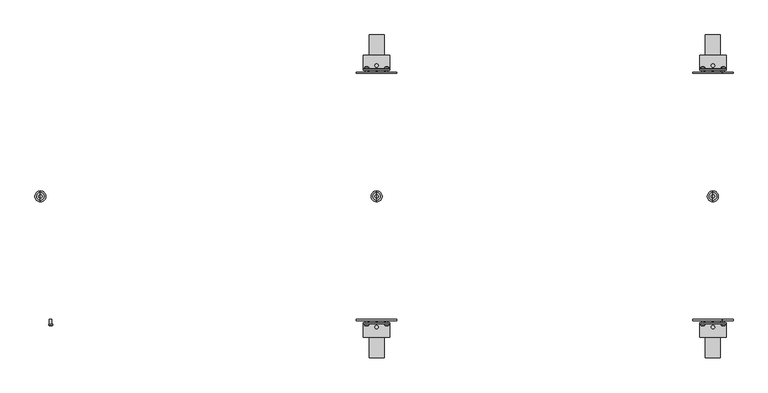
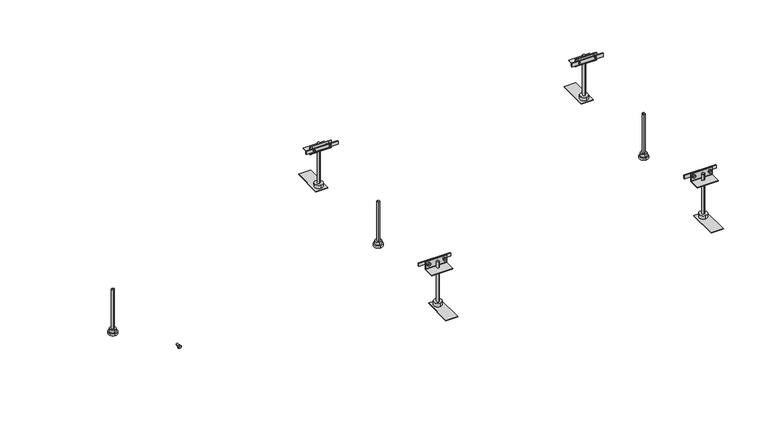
"""IFC4 building model written with IfcOpenShell, lengths in millimetres: proxy geometry."""

from ifc_helpers import new_model, si_unit, point, frame, frame_2d, origin, place, context, project, spatial, polyline, circle_curve, ellipse_curve, trimmed, segment, composite_curve, outline, extrude, source, transform, mapped, element, save
from ifc_brep_helpers import plane_surface, cylinder_surface, revolved_surface, advanced_brep


def electrical_fixtures_3dcf8f7d(model_context):
    return source(origin(), model_context, "Body", "SolidModel", [
        advanced_brep(
        [(1600.0, 13.0, -129.7), (1600.0, -13.0, -129.7), (1600.0, 0.0, -129.7), (1600.0, 13.0, -123.7), (1600.0, -13.0, -123.7), (1600.0, 9.0, -123.7), (1600.0, -9.0, -123.7), (1600.0, 9.0, -114.7), (1600.0, -9.0, -114.7), (1600.0, 3.954744, -114.7), (1600.0, -3.954744, -114.7), (1600.0, 3.954744, 10.3), (1600.0, -3.954744, 10.3), (1600.0, 0.0, 10.3)],
        [
            (0, 1, circle_curve(frame((1600.0, 0.0, -129.7), z_axis=(0.0, 0.0, -1.0), x_axis=(0.0, -1.0, 0.0)), 13.0)),
            (1, 2),
            (2, 0),
            (1, 0, circle_curve(frame((1600.0, 0.0, -129.7), z_axis=(0.0, 0.0, -1.0), x_axis=(0.0, -1.0, 0.0)), 13.0)),
            (3, 4, circle_curve(frame((1600.0, 0.0, -123.7), z_axis=(0.0, 0.0, -1.0), x_axis=(0.0, -1.0, 0.0)), 13.0)),
            (4, 1),
            (0, 3),
            (4, 3, circle_curve(frame((1600.0, 0.0, -123.7), z_axis=(0.0, 0.0, -1.0), x_axis=(0.0, -1.0, 0.0)), 13.0)),
            (5, 6, circle_curve(frame((1600.0, 0.0, -123.7), z_axis=(0.0, 0.0, -1.0), x_axis=(0.0, -1.0, 0.0)), 9.0)),
            (6, 4),
            (3, 5),
            (6, 5, circle_curve(frame((1600.0, 0.0, -123.7), z_axis=(0.0, 0.0, -1.0), x_axis=(0.0, -1.0, 0.0)), 9.0)),
            (7, 8, circle_curve(frame((1600.0, 0.0, -114.7), z_axis=(0.0, 0.0, -1.0), x_axis=(0.0, -1.0, 0.0)), 9.0)),
            (8, 6),
            (5, 7),
            (8, 7, circle_curve(frame((1600.0, 0.0, -114.7), z_axis=(0.0, 0.0, -1.0), x_axis=(0.0, -1.0, 0.0)), 9.0)),
            (9, 10, circle_curve(frame((1600.0, 0.0, -114.7), z_axis=(0.0, 0.0, -1.0), x_axis=(0.0, -1.0, 0.0)), 3.954744)),
            (10, 8),
            (7, 9),
            (10, 9, circle_curve(frame((1600.0, 0.0, -114.7), z_axis=(0.0, 0.0, -1.0), x_axis=(0.0, -1.0, 0.0)), 3.954744)),
            (11, 12, circle_curve(frame((1600.0, 0.0, 10.3), z_axis=(0.0, 0.0, -1.0), x_axis=(0.0, -1.0, 0.0)), 3.954744)),
            (12, 10),
            (9, 11),
            (12, 11, circle_curve(frame((1600.0, 0.0, 10.3), z_axis=(0.0, 0.0, -1.0), x_axis=(0.0, -1.0, 0.0)), 3.954744)),
            (13, 12),
            (11, 13),
        ],
        [
            plane_surface(frame((1600.0, 0.0, -129.7), z_axis=(0.0, 0.0, -1.0), x_axis=(0.0, -1.0, 0.0))),
            cylinder_surface(frame((1600.0, 0.0, 7.8), z_axis=(0.0, 0.0, 1.0), x_axis=(0.0, -1.0, 0.0)), 13.0),
            plane_surface(frame((1600.0, 0.0, -123.7), z_axis=(0.0, 0.0, 1.0), x_axis=(0.0, -1.0, 0.0))),
            cylinder_surface(frame((1600.0, 0.0, 7.8), z_axis=(0.0, 0.0, 1.0), x_axis=(0.0, -1.0, 0.0)), 9.0),
            plane_surface(frame((1600.0, 0.0, -114.7), z_axis=(0.0, 0.0, 1.0), x_axis=(0.0, -1.0, 0.0))),
            cylinder_surface(frame((1600.0, 0.0, 7.8), z_axis=(0.0, 0.0, 1.0), x_axis=(0.0, -1.0, 0.0)), 3.954744),
            plane_surface(frame((1600.0, 0.0, 10.3), z_axis=(0.0, 0.0, 1.0), x_axis=(0.0, -1.0, 0.0))),
        ],
        [
            (0, [[1, 2, 3]]),
            (0, [[4, -3, -2]]),
            (1, [[5, 6, -1, 7]]),
            (1, [[8, -7, -4, -6]]),
            (2, [[9, 10, -5, 11]]),
            (2, [[12, -11, -8, -10]]),
            (3, [[13, 14, -9, 15]]),
            (3, [[16, -15, -12, -14]]),
            (4, [[17, 18, -13, 19]]),
            (4, [[20, -19, -16, -18]]),
            (5, [[21, 22, -17, 23]]),
            (5, [[24, -23, -20, -22]]),
            (6, [[25, -21, 26]]),
            (6, [[-26, -24, -25]]),
        ],
    ),
        advanced_brep(
        [(1629.0575247, -306.6418922, 3.3), (1619.4769168, -306.6418922, 3.3), (1619.4769168, -304.7, 3.3), (1629.0575247, -304.7, 3.3), (1621.7042517, -304.7, 3.3), (1626.8301898, -304.7, 3.3), (1621.7042517, -292.7, 3.3), (1626.8301898, -292.7, 3.3), (1624.2672208, -292.7, 3.3), (1624.2672208, -308.3479209, 3.3)],
        [
            (0, 1, circle_curve(frame((1624.2672208, -306.6418922, 3.3), z_axis=(0.0, 1.0, 0.0), x_axis=(-1.0, 0.0, 0.0)), 4.790304)),
            (1, 2),
            (2, 3, circle_curve(frame((1624.2672208, -304.7, 3.3), z_axis=(0.0, -1.0, 0.0), x_axis=(-1.0, 0.0, 0.0)), 4.790304)),
            (3, 0),
            (1, 0, circle_curve(frame((1624.2672208, -306.6418922, 3.3), z_axis=(0.0, 1.0, 0.0), x_axis=(-1.0, 0.0, 0.0)), 4.790304)),
            (3, 2, circle_curve(frame((1624.2672208, -304.7, 3.3), z_axis=(0.0, -1.0, 0.0), x_axis=(-1.0, 0.0, 0.0)), 4.790304)),
            (2, 4),
            (4, 5, circle_curve(frame((1624.2672208, -304.7, 3.3), z_axis=(0.0, -1.0, 0.0), x_axis=(-1.0, 0.0, 0.0)), 2.562969)),
            (5, 3),
            (5, 4, circle_curve(frame((1624.2672208, -304.7, 3.3), z_axis=(0.0, -1.0, 0.0), x_axis=(-1.0, 0.0, 0.0)), 2.562969)),
            (4, 6),
            (6, 7, circle_curve(frame((1624.2672208, -292.7, 3.3), z_axis=(0.0, -1.0, 0.0), x_axis=(-1.0, 0.0, 0.0)), 2.562969)),
            (7, 5),
            (7, 6, circle_curve(frame((1624.2672208, -292.7, 3.3), z_axis=(0.0, -1.0, 0.0), x_axis=(-1.0, 0.0, 0.0)), 2.562969)),
            (6, 8),
            (8, 7),
            (9, 1, circle_curve(frame((1624.2353142, -300.8592246, 3.3), z_axis=(0.0, 0.0, -1.0), x_axis=(-1.0, 0.0, 0.0)), 7.4887643)),
            (0, 9, circle_curve(frame((1624.2991274, -300.8592246, 3.3), z_axis=(0.0, 0.0, -1.0), x_axis=(1.0, 0.0, 0.0)), 7.4887643)),
        ],
        [
            cylinder_surface(frame((1624.2672208, -304.2950786, 3.3), z_axis=(0.0, -1.0, 0.0), x_axis=(-1.0, 0.0, 0.0)), 4.790304),
            plane_surface(frame((1624.2672208, -304.7, 3.3), z_axis=(0.0, 1.0, 0.0), x_axis=(-1.0, 0.0, 0.0))),
            cylinder_surface(frame((1624.2672208, -304.2950786, 3.3), z_axis=(0.0, -1.0, 0.0), x_axis=(-1.0, 0.0, 0.0)), 2.562969),
            plane_surface(frame((1624.2672208, -292.7, 3.3), z_axis=(0.0, 1.0, 0.0), x_axis=(-1.0, 0.0, 0.0))),
            revolved_surface(trimmed(ellipse_curve(frame((1624.2353142, -300.8592246, 3.3), z_axis=(0.0, 0.0, 1.0), x_axis=(-1.0, 0.0, 0.0)), 7.4887643, 7.4887643), [point((1619.4769168, -306.6418922, 3.3))], [point((1624.2672208, -308.3479209, 3.3))], True, "CARTESIAN"), (1624.2672208, -304.2950786, 3.3), (0.0, -1.0, 0.0)),
        ],
        [
            (0, [[1, 2, 3, 4]]),
            (0, [[5, -4, 6, -2]]),
            (1, [[-3, 7, 8, 9]]),
            (1, [[-6, -9, 10, -7]]),
            (2, [[-8, 11, 12, 13]]),
            (2, [[-10, -13, 14, -11]]),
            (3, [[-12, 15, 16]]),
            (3, [[-14, -16, -15]]),
            (4, [[17, -1, 18]]),
            (4, [[-18, -5, -17]]),
        ],
    ),
        advanced_brep(
        [(1580.790304, -306.6418922, 3.3), (1571.209696, -306.6418922, 3.3), (1571.209696, -304.7, 3.3), (1580.790304, -304.7, 3.3), (1573.437031, -304.7, 3.3), (1578.562969, -304.7, 3.3), (1573.437031, -292.7, 3.3), (1578.562969, -292.7, 3.3), (1576.0, -292.7, 3.3), (1576.0, -308.3479209, 3.3)],
        [
            (0, 1, circle_curve(frame((1576.0, -306.6418922, 3.3), z_axis=(0.0, 1.0, 0.0), x_axis=(-1.0, 0.0, 0.0)), 4.790304)),
            (1, 2),
            (2, 3, circle_curve(frame((1576.0, -304.7, 3.3), z_axis=(0.0, -1.0, 0.0), x_axis=(-1.0, 0.0, 0.0)), 4.790304)),
            (3, 0),
            (1, 0, circle_curve(frame((1576.0, -306.6418922, 3.3), z_axis=(0.0, 1.0, 0.0), x_axis=(-1.0, 0.0, 0.0)), 4.790304)),
            (3, 2, circle_curve(frame((1576.0, -304.7, 3.3), z_axis=(0.0, -1.0, 0.0), x_axis=(-1.0, 0.0, 0.0)), 4.790304)),
            (2, 4),
            (4, 5, circle_curve(frame((1576.0, -304.7, 3.3), z_axis=(0.0, -1.0, 0.0), x_axis=(-1.0, 0.0, 0.0)), 2.562969)),
            (5, 3),
            (5, 4, circle_curve(frame((1576.0, -304.7, 3.3), z_axis=(0.0, -1.0, 0.0), x_axis=(-1.0, 0.0, 0.0)), 2.562969)),
            (4, 6),
            (6, 7, circle_curve(frame((1576.0, -292.7, 3.3), z_axis=(0.0, -1.0, 0.0), x_axis=(-1.0, 0.0, 0.0)), 2.562969)),
            (7, 5),
            (7, 6, circle_curve(frame((1576.0, -292.7, 3.3), z_axis=(0.0, -1.0, 0.0), x_axis=(-1.0, 0.0, 0.0)), 2.562969)),
            (6, 8),
            (8, 7),
            (9, 1, circle_curve(frame((1575.9680934, -300.8592246, 3.3), z_axis=(0.0, 0.0, -1.0), x_axis=(-1.0, 0.0, 0.0)), 7.4887643)),
            (0, 9, circle_curve(frame((1576.0319066, -300.8592246, 3.3), z_axis=(0.0, 0.0, -1.0), x_axis=(1.0, 0.0, 0.0)), 7.4887643)),
        ],
        [
            cylinder_surface(frame((1576.0, -304.2950786, 3.3), z_axis=(0.0, -1.0, 0.0), x_axis=(-1.0, 0.0, 0.0)), 4.790304),
            plane_surface(frame((1576.0, -304.7, 3.3), z_axis=(0.0, 1.0, 0.0), x_axis=(-1.0, 0.0, 0.0))),
            cylinder_surface(frame((1576.0, -304.2950786, 3.3), z_axis=(0.0, -1.0, 0.0), x_axis=(-1.0, 0.0, 0.0)), 2.562969),
            plane_surface(frame((1576.0, -292.7, 3.3), z_axis=(0.0, 1.0, 0.0), x_axis=(-1.0, 0.0, 0.0))),
            revolved_surface(trimmed(ellipse_curve(frame((1575.9680934, -300.8592246, 3.3), z_axis=(0.0, 0.0, 1.0), x_axis=(-1.0, 0.0, 0.0)), 7.4887643, 7.4887643), [point((1571.209696, -306.6418922, 3.3))], [point((1576.0, -308.3479209, 3.3))], True, "CARTESIAN"), (1576.0, -304.2950786, 3.3), (0.0, -1.0, 0.0)),
        ],
        [
            (0, [[1, 2, 3, 4]]),
            (0, [[5, -4, 6, -2]]),
            (1, [[-3, 7, 8, 9]]),
            (1, [[-6, -9, 10, -7]]),
            (2, [[-8, 11, 12, 13]]),
            (2, [[-10, -13, 14, -11]]),
            (3, [[-12, 15, 16]]),
            (3, [[-14, -16, -15]]),
            (4, [[17, -1, 18]]),
            (4, [[-18, -5, -17]]),
        ],
    ),
        advanced_brep(
        [(1629.0575247, 304.7, 3.3), (1619.4769168, 304.7, 3.3), (1619.4769168, 306.6418922, 3.3), (1629.0575247, 306.6418922, 3.3), (1626.8301898, 304.7, 3.3), (1621.7042517, 304.7, 3.3), (1626.8301898, 292.7, 3.3), (1621.7042517, 292.7, 3.3), (1624.2672208, 292.7, 3.3), (1624.2672208, 308.3479209, 3.3)],
        [
            (0, 1, circle_curve(frame((1624.2672208, 304.7, 3.3), z_axis=(0.0, 1.0, 0.0), x_axis=(-1.0, 0.0, 0.0)), 4.790304)),
            (1, 2),
            (2, 3, circle_curve(frame((1624.2672208, 306.6418922, 3.3), z_axis=(0.0, -1.0, 0.0), x_axis=(-1.0, 0.0, 0.0)), 4.790304)),
            (3, 0),
            (1, 0, circle_curve(frame((1624.2672208, 304.7, 3.3), z_axis=(0.0, 1.0, 0.0), x_axis=(-1.0, 0.0, 0.0)), 4.790304)),
            (3, 2, circle_curve(frame((1624.2672208, 306.6418922, 3.3), z_axis=(0.0, -1.0, 0.0), x_axis=(-1.0, 0.0, 0.0)), 4.790304)),
            (4, 5, circle_curve(frame((1624.2672208, 304.7, 3.3), z_axis=(0.0, 1.0, 0.0), x_axis=(-1.0, 0.0, 0.0)), 2.562969)),
            (5, 1),
            (0, 4),
            (5, 4, circle_curve(frame((1624.2672208, 304.7, 3.3), z_axis=(0.0, 1.0, 0.0), x_axis=(-1.0, 0.0, 0.0)), 2.562969)),
            (6, 7, circle_curve(frame((1624.2672208, 292.7, 3.3), z_axis=(0.0, 1.0, 0.0), x_axis=(-1.0, 0.0, 0.0)), 2.562969)),
            (7, 5),
            (4, 6),
            (7, 6, circle_curve(frame((1624.2672208, 292.7, 3.3), z_axis=(0.0, 1.0, 0.0), x_axis=(-1.0, 0.0, 0.0)), 2.562969)),
            (8, 7),
            (6, 8),
            (2, 9, circle_curve(frame((1624.2353142, 300.8592246, 3.3), z_axis=(0.0, 0.0, -1.0), x_axis=(-1.0, 0.0, 0.0)), 7.4887643)),
            (9, 3, circle_curve(frame((1624.2991274, 300.8592246, 3.3), z_axis=(0.0, 0.0, -1.0), x_axis=(1.0, 0.0, 0.0)), 7.4887643)),
        ],
        [
            cylinder_surface(frame((1624.2672208, 304.2950786, 3.3), z_axis=(0.0, -1.0, 0.0), x_axis=(-1.0, 0.0, 0.0)), 4.790304),
            plane_surface(frame((1624.2672208, 304.7, 3.3), z_axis=(0.0, -1.0, 0.0), x_axis=(-1.0, 0.0, 0.0))),
            cylinder_surface(frame((1624.2672208, 304.2950786, 3.3), z_axis=(0.0, -1.0, 0.0), x_axis=(-1.0, 0.0, 0.0)), 2.562969),
            plane_surface(frame((1624.2672208, 292.7, 3.3), z_axis=(0.0, -1.0, 0.0), x_axis=(-1.0, 0.0, 0.0))),
            revolved_surface(trimmed(ellipse_curve(frame((1624.2353142, 300.8592246, 3.3), z_axis=(0.0, 0.0, 1.0), x_axis=(-1.0, 0.0, 0.0)), 7.4887643, 7.4887643), [point((1624.2672208, 308.3479209, 3.3))], [point((1619.4769168, 306.6418922, 3.3))], True, "CARTESIAN"), (1624.2672208, 304.2950786, 3.3), (0.0, -1.0, 0.0)),
        ],
        [
            (0, [[1, 2, 3, 4]]),
            (0, [[5, -4, 6, -2]]),
            (1, [[7, 8, -1, 9]]),
            (1, [[10, -9, -5, -8]]),
            (2, [[11, 12, -7, 13]]),
            (2, [[14, -13, -10, -12]]),
            (3, [[15, -11, 16]]),
            (3, [[-16, -14, -15]]),
            (4, [[-3, 17, 18]]),
            (4, [[-6, -18, -17]]),
        ],
    ),
        advanced_brep(
        [(1580.790304, 304.7, 3.3), (1571.209696, 304.7, 3.3), (1571.209696, 306.6418922, 3.3), (1580.790304, 306.6418922, 3.3), (1578.562969, 304.7, 3.3), (1573.437031, 304.7, 3.3), (1578.562969, 292.7, 3.3), (1573.437031, 292.7, 3.3), (1576.0, 292.7, 3.3), (1576.0, 308.3479209, 3.3)],
        [
            (0, 1, circle_curve(frame((1576.0, 304.7, 3.3), z_axis=(0.0, 1.0, 0.0), x_axis=(-1.0, 0.0, 0.0)), 4.790304)),
            (1, 2),
            (2, 3, circle_curve(frame((1576.0, 306.6418922, 3.3), z_axis=(0.0, -1.0, 0.0), x_axis=(-1.0, 0.0, 0.0)), 4.790304)),
            (3, 0),
            (1, 0, circle_curve(frame((1576.0, 304.7, 3.3), z_axis=(0.0, 1.0, 0.0), x_axis=(-1.0, 0.0, 0.0)), 4.790304)),
            (3, 2, circle_curve(frame((1576.0, 306.6418922, 3.3), z_axis=(0.0, -1.0, 0.0), x_axis=(-1.0, 0.0, 0.0)), 4.790304)),
            (4, 5, circle_curve(frame((1576.0, 304.7, 3.3), z_axis=(0.0, 1.0, 0.0), x_axis=(-1.0, 0.0, 0.0)), 2.562969)),
            (5, 1),
            (0, 4),
            (5, 4, circle_curve(frame((1576.0, 304.7, 3.3), z_axis=(0.0, 1.0, 0.0), x_axis=(-1.0, 0.0, 0.0)), 2.562969)),
            (6, 7, circle_curve(frame((1576.0, 292.7, 3.3), z_axis=(0.0, 1.0, 0.0), x_axis=(-1.0, 0.0, 0.0)), 2.562969)),
            (7, 5),
            (4, 6),
            (7, 6, circle_curve(frame((1576.0, 292.7, 3.3), z_axis=(0.0, 1.0, 0.0), x_axis=(-1.0, 0.0, 0.0)), 2.562969)),
            (8, 7),
            (6, 8),
            (2, 9, circle_curve(frame((1575.9680934, 300.8592246, 3.3), z_axis=(0.0, 0.0, -1.0), x_axis=(-1.0, 0.0, 0.0)), 7.4887643)),
            (9, 3, circle_curve(frame((1576.0319066, 300.8592246, 3.3), z_axis=(0.0, 0.0, -1.0), x_axis=(1.0, 0.0, 0.0)), 7.4887643)),
        ],
        [
            cylinder_surface(frame((1576.0, 304.2950786, 3.3), z_axis=(0.0, -1.0, 0.0), x_axis=(-1.0, 0.0, 0.0)), 4.790304),
            plane_surface(frame((1576.0, 304.7, 3.3), z_axis=(0.0, -1.0, 0.0), x_axis=(-1.0, 0.0, 0.0))),
            cylinder_surface(frame((1576.0, 304.2950786, 3.3), z_axis=(0.0, -1.0, 0.0), x_axis=(-1.0, 0.0, 0.0)), 2.562969),
            plane_surface(frame((1576.0, 292.7, 3.3), z_axis=(0.0, -1.0, 0.0), x_axis=(-1.0, 0.0, 0.0))),
            revolved_surface(trimmed(ellipse_curve(frame((1575.9680934, 300.8592246, 3.3), z_axis=(0.0, 0.0, 1.0), x_axis=(-1.0, 0.0, 0.0)), 7.4887643, 7.4887643), [point((1576.0, 308.3479209, 3.3))], [point((1571.209696, 306.6418922, 3.3))], True, "CARTESIAN"), (1576.0, 304.2950786, 3.3), (0.0, -1.0, 0.0)),
        ],
        [
            (0, [[1, 2, 3, 4]]),
            (0, [[5, -4, 6, -2]]),
            (1, [[7, 8, -1, 9]]),
            (1, [[10, -9, -5, -8]]),
            (2, [[11, 12, -7, 13]]),
            (2, [[14, -13, -10, -12]]),
            (3, [[15, -11, 16]]),
            (3, [[-16, -14, -15]]),
            (4, [[-3, 17, 18]]),
            (4, [[-6, -18, -17]]),
        ],
    ),
        extrude(outline(polyline([(1552.0, 292.7), (1552.0, 295.7), (1648.0, 295.7), (1648.0, 292.7), (1552.0, 292.7)])), frame((0.0, 0.0, -1.7), z_axis=(0.0, 0.0, 1.0), x_axis=(1.0, 0.0, 0.0)), (0.0, 0.0, 1.0), 10.0),
        extrude(outline(polyline([(1552.0, -295.7), (1552.0, -292.7), (1648.0, -292.7), (1648.0, -295.7), (1552.0, -295.7)])), frame((0.0, 0.0, -1.7), z_axis=(0.0, 0.0, 1.0), x_axis=(1.0, 0.0, 0.0)), (0.0, 0.0, 1.0), 10.0),
        extrude(outline(composite_curve([segment(polyline([(300.6, 11.7), (302.6, 11.7), (302.6, -10.3088822)]), True, "CONTINUOUS"), segment(trimmed(circle_curve(frame_2d((303.5911178, -10.3088822)), 0.9911178), [point((302.6, -10.3088822))], [point((303.5911178, -11.3))], True, "CARTESIAN"), True, "CONTINUOUS"), segment(polyline([(303.5911178, -11.3), (335.6, -11.3), (335.6, -13.3), (303.6002521, -13.3)]), True, "CONTINUOUS"), segment(trimmed(circle_curve(frame_2d((303.6002521, -10.2997479)), 3.0002521), [point((303.6002521, -13.3))], [point((300.6, -10.2997479))], False, "CARTESIAN"), True, "CONTINUOUS"), segment(polyline([(300.6, -10.2997479), (300.6, 11.7)]), True, "CONTINUOUS")], self_intersect=False)), frame((1568.3, 0.0, 0.0), z_axis=(1.0, 0.0, 0.0), x_axis=(0.0, 1.0, 0.0)), (0.0, 0.0, 1.0), 63.4),
        extrude(outline(composite_curve([segment(polyline([(-300.6, 11.7), (-300.6, -10.2997479)]), True, "CONTINUOUS"), segment(trimmed(circle_curve(frame_2d((-303.6002521, -10.2997479)), 3.0002521), [point((-300.6, -10.2997479))], [point((-303.6002521, -13.3))], False, "CARTESIAN"), True, "CONTINUOUS"), segment(polyline([(-303.6002521, -13.3), (-335.6, -13.3), (-335.6, -11.3), (-303.5911178, -11.3)]), True, "CONTINUOUS"), segment(trimmed(circle_curve(frame_2d((-303.5911178, -10.3088822)), 0.9911178), [point((-303.5911178, -11.3))], [point((-302.6, -10.3088822))], True, "CARTESIAN"), True, "CONTINUOUS"), segment(polyline([(-302.6, -10.3088822), (-302.6, 11.7), (-300.6, 11.7)]), True, "CONTINUOUS")], self_intersect=False)), frame((1568.3, 0.0, 0.0), z_axis=(1.0, 0.0, 0.0), x_axis=(0.0, 1.0, 0.0)), (0.0, 0.0, 1.0), 63.4),
        extrude(outline(composite_curve([segment(trimmed(circle_curve(frame_2d((1600.0, 311.1712378)), 3.9923162), [point((1600.0, 315.163554))], [point((1600.0, 307.1789216))], False, "CARTESIAN"), True, "CONTINUOUS"), segment(trimmed(circle_curve(frame_2d((1600.0, 311.1712378)), 3.9923162), [point((1600.0, 307.1789216))], [point((1600.0, 315.163554))], False, "CARTESIAN"), True, "CONTINUOUS")], self_intersect=False)), frame((0.0, 0.0, -119.0), z_axis=(0.0, 0.0, 1.0), x_axis=(1.0, 0.0, 0.0)), (0.0, 0.0, 1.0), 126.8),
        extrude(outline(composite_curve([segment(trimmed(circle_curve(frame_2d((1600.0, -311.0787011)), 3.991847), [point((1600.0, -307.0868541))], [point((1600.0, -315.0705482))], False, "CARTESIAN"), True, "CONTINUOUS"), segment(trimmed(circle_curve(frame_2d((1600.0, -311.0787011)), 3.991847), [point((1600.0, -315.0705482))], [point((1600.0, -307.0868541))], False, "CARTESIAN"), True, "CONTINUOUS")], self_intersect=False)), frame((0.0, 0.0, -119.0), z_axis=(0.0, 0.0, 1.0), x_axis=(1.0, 0.0, 0.0)), (0.0, 0.0, 1.0), 126.8),
        extrude(outline(composite_curve([segment(trimmed(circle_curve(frame_2d((1600.0, 311.1652527)), 12.0), [point((1600.0, 323.1652527))], [point((1600.0, 299.1652527))], False, "CARTESIAN"), True, "CONTINUOUS"), segment(trimmed(circle_curve(frame_2d((1600.0, 311.1652527)), 12.0), [point((1600.0, 299.1652527))], [point((1600.0, 323.1652527))], False, "CARTESIAN"), True, "CONTINUOUS")], self_intersect=False)), frame((0.0, 0.0, -129.7), z_axis=(0.0, 0.0, 1.0), x_axis=(1.0, 0.0, 0.0)), (0.0, 0.0, 1.0), 10.7),
        extrude(outline(composite_curve([segment(trimmed(circle_curve(frame_2d((1600.0, -311.112037)), 12.0), [point((1600.0, -299.112037))], [point((1600.0, -323.112037))], False, "CARTESIAN"), True, "CONTINUOUS"), segment(trimmed(circle_curve(frame_2d((1600.0, -311.112037)), 12.0), [point((1600.0, -323.112037))], [point((1600.0, -299.112037))], False, "CARTESIAN"), True, "CONTINUOUS")], self_intersect=False)), frame((0.0, 0.0, -129.7), z_axis=(0.0, 0.0, 1.0), x_axis=(1.0, 0.0, 0.0)), (0.0, 0.0, 1.0), 10.7),
        extrude(outline(polyline([(1618.0, 294.1), (1582.0, 294.1), (1582.0, 384.1), (1618.0, 384.1), (1618.0, 294.1)])), frame((0.0, 0.0, -131.2), z_axis=(0.0, 0.0, 1.0), x_axis=(1.0, 0.0, 0.0)), (0.0, 0.0, 1.0), 1.5),
        extrude(outline(polyline([(1618.0, -384.1), (1582.0, -384.1), (1582.0, -294.1), (1618.0, -294.1), (1618.0, -384.1)])), frame((0.0, 0.0, -131.2), z_axis=(0.0, 0.0, 1.0), x_axis=(1.0, 0.0, 0.0)), (0.0, 0.0, 1.0), 1.5),
        advanced_brep(
        [(800.0, 13.0, -129.7), (800.0, -13.0, -129.7), (800.0, 0.0, -129.7), (800.0, 13.0, -123.7), (800.0, -13.0, -123.7), (800.0, 9.0, -123.7), (800.0, -9.0, -123.7), (800.0, 9.0, -114.7), (800.0, -9.0, -114.7), (800.0, 3.954744, -114.7), (800.0, -3.954744, -114.7), (800.0, 3.954744, 10.3), (800.0, -3.954744, 10.3), (800.0, 0.0, 10.3)],
        [
            (0, 1, circle_curve(frame((800.0, 0.0, -129.7), z_axis=(0.0, 0.0, -1.0), x_axis=(0.0, -1.0, 0.0)), 13.0)),
            (1, 2),
            (2, 0),
            (1, 0, circle_curve(frame((800.0, 0.0, -129.7), z_axis=(0.0, 0.0, -1.0), x_axis=(0.0, -1.0, 0.0)), 13.0)),
            (3, 4, circle_curve(frame((800.0, 0.0, -123.7), z_axis=(0.0, 0.0, -1.0), x_axis=(0.0, -1.0, 0.0)), 13.0)),
            (4, 1),
            (0, 3),
            (4, 3, circle_curve(frame((800.0, 0.0, -123.7), z_axis=(0.0, 0.0, -1.0), x_axis=(0.0, -1.0, 0.0)), 13.0)),
            (5, 6, circle_curve(frame((800.0, 0.0, -123.7), z_axis=(0.0, 0.0, -1.0), x_axis=(0.0, -1.0, 0.0)), 9.0)),
            (6, 4),
            (3, 5),
            (6, 5, circle_curve(frame((800.0, 0.0, -123.7), z_axis=(0.0, 0.0, -1.0), x_axis=(0.0, -1.0, 0.0)), 9.0)),
            (7, 8, circle_curve(frame((800.0, 0.0, -114.7), z_axis=(0.0, 0.0, -1.0), x_axis=(0.0, -1.0, 0.0)), 9.0)),
            (8, 6),
            (5, 7),
            (8, 7, circle_curve(frame((800.0, 0.0, -114.7), z_axis=(0.0, 0.0, -1.0), x_axis=(0.0, -1.0, 0.0)), 9.0)),
            (9, 10, circle_curve(frame((800.0, 0.0, -114.7), z_axis=(0.0, 0.0, -1.0), x_axis=(0.0, -1.0, 0.0)), 3.954744)),
            (10, 8),
            (7, 9),
            (10, 9, circle_curve(frame((800.0, 0.0, -114.7), z_axis=(0.0, 0.0, -1.0), x_axis=(0.0, -1.0, 0.0)), 3.954744)),
            (11, 12, circle_curve(frame((800.0, 0.0, 10.3), z_axis=(0.0, 0.0, -1.0), x_axis=(0.0, -1.0, 0.0)), 3.954744)),
            (12, 10),
            (9, 11),
            (12, 11, circle_curve(frame((800.0, 0.0, 10.3), z_axis=(0.0, 0.0, -1.0), x_axis=(0.0, -1.0, 0.0)), 3.954744)),
            (13, 12),
            (11, 13),
        ],
        [
            plane_surface(frame((800.0, 0.0, -129.7), z_axis=(0.0, 0.0, -1.0), x_axis=(0.0, -1.0, 0.0))),
            cylinder_surface(frame((800.0, 0.0, 7.8), z_axis=(0.0, 0.0, 1.0), x_axis=(0.0, -1.0, 0.0)), 13.0),
            plane_surface(frame((800.0, 0.0, -123.7), z_axis=(0.0, 0.0, 1.0), x_axis=(0.0, -1.0, 0.0))),
            cylinder_surface(frame((800.0, 0.0, 7.8), z_axis=(0.0, 0.0, 1.0), x_axis=(0.0, -1.0, 0.0)), 9.0),
            plane_surface(frame((800.0, 0.0, -114.7), z_axis=(0.0, 0.0, 1.0), x_axis=(0.0, -1.0, 0.0))),
            cylinder_surface(frame((800.0, 0.0, 7.8), z_axis=(0.0, 0.0, 1.0), x_axis=(0.0, -1.0, 0.0)), 3.954744),
            plane_surface(frame((800.0, 0.0, 10.3), z_axis=(0.0, 0.0, 1.0), x_axis=(0.0, -1.0, 0.0))),
        ],
        [
            (0, [[1, 2, 3]]),
            (0, [[4, -3, -2]]),
            (1, [[5, 6, -1, 7]]),
            (1, [[8, -7, -4, -6]]),
            (2, [[9, 10, -5, 11]]),
            (2, [[12, -11, -8, -10]]),
            (3, [[13, 14, -9, 15]]),
            (3, [[16, -15, -12, -14]]),
            (4, [[17, 18, -13, 19]]),
            (4, [[20, -19, -16, -18]]),
            (5, [[21, 22, -17, 23]]),
            (5, [[24, -23, -20, -22]]),
            (6, [[25, -21, 26]]),
            (6, [[-26, -24, -25]]),
        ],
    ),
        advanced_brep(
        [(829.0575247, -306.6418922, 3.3), (819.4769168, -306.6418922, 3.3), (819.4769168, -304.7, 3.3), (829.0575247, -304.7, 3.3), (821.7042517, -304.7, 3.3), (826.8301898, -304.7, 3.3), (821.7042517, -292.7, 3.3), (826.8301898, -292.7, 3.3), (824.2672208, -292.7, 3.3), (824.2672208, -308.3479209, 3.3)],
        [
            (0, 1, circle_curve(frame((824.2672208, -306.6418922, 3.3), z_axis=(0.0, 1.0, 0.0), x_axis=(-1.0, 0.0, 0.0)), 4.790304)),
            (1, 2),
            (2, 3, circle_curve(frame((824.2672208, -304.7, 3.3), z_axis=(0.0, -1.0, 0.0), x_axis=(-1.0, 0.0, 0.0)), 4.790304)),
            (3, 0),
            (1, 0, circle_curve(frame((824.2672208, -306.6418922, 3.3), z_axis=(0.0, 1.0, 0.0), x_axis=(-1.0, 0.0, 0.0)), 4.790304)),
            (3, 2, circle_curve(frame((824.2672208, -304.7, 3.3), z_axis=(0.0, -1.0, 0.0), x_axis=(-1.0, 0.0, 0.0)), 4.790304)),
            (2, 4),
            (4, 5, circle_curve(frame((824.2672208, -304.7, 3.3), z_axis=(0.0, -1.0, 0.0), x_axis=(-1.0, 0.0, 0.0)), 2.562969)),
            (5, 3),
            (5, 4, circle_curve(frame((824.2672208, -304.7, 3.3), z_axis=(0.0, -1.0, 0.0), x_axis=(-1.0, 0.0, 0.0)), 2.562969)),
            (4, 6),
            (6, 7, circle_curve(frame((824.2672208, -292.7, 3.3), z_axis=(0.0, -1.0, 0.0), x_axis=(-1.0, 0.0, 0.0)), 2.562969)),
            (7, 5),
            (7, 6, circle_curve(frame((824.2672208, -292.7, 3.3), z_axis=(0.0, -1.0, 0.0), x_axis=(-1.0, 0.0, 0.0)), 2.562969)),
            (6, 8),
            (8, 7),
            (9, 1, circle_curve(frame((824.2353142, -300.8592246, 3.3), z_axis=(0.0, 0.0, -1.0), x_axis=(-1.0, 0.0, 0.0)), 7.4887643)),
            (0, 9, circle_curve(frame((824.2991274, -300.8592246, 3.3), z_axis=(0.0, 0.0, -1.0), x_axis=(1.0, 0.0, 0.0)), 7.4887643)),
        ],
        [
            cylinder_surface(frame((824.2672208, -304.2950786, 3.3), z_axis=(0.0, -1.0, 0.0), x_axis=(-1.0, 0.0, 0.0)), 4.790304),
            plane_surface(frame((824.2672208, -304.7, 3.3), z_axis=(0.0, 1.0, 0.0), x_axis=(-1.0, 0.0, 0.0))),
            cylinder_surface(frame((824.2672208, -304.2950786, 3.3), z_axis=(0.0, -1.0, 0.0), x_axis=(-1.0, 0.0, 0.0)), 2.562969),
            plane_surface(frame((824.2672208, -292.7, 3.3), z_axis=(0.0, 1.0, 0.0), x_axis=(-1.0, 0.0, 0.0))),
            revolved_surface(trimmed(ellipse_curve(frame((824.2353142, -300.8592246, 3.3), z_axis=(0.0, 0.0, 1.0), x_axis=(-1.0, 0.0, 0.0)), 7.4887643, 7.4887643), [point((819.4769168, -306.6418922, 3.3))], [point((824.2672208, -308.3479209, 3.3))], True, "CARTESIAN"), (824.2672208, -304.2950786, 3.3), (0.0, -1.0, 0.0)),
        ],
        [
            (0, [[1, 2, 3, 4]]),
            (0, [[5, -4, 6, -2]]),
            (1, [[-3, 7, 8, 9]]),
            (1, [[-6, -9, 10, -7]]),
            (2, [[-8, 11, 12, 13]]),
            (2, [[-10, -13, 14, -11]]),
            (3, [[-12, 15, 16]]),
            (3, [[-14, -16, -15]]),
            (4, [[17, -1, 18]]),
            (4, [[-18, -5, -17]]),
        ],
    ),
        advanced_brep(
        [(780.790304, -306.6418922, 3.3), (771.209696, -306.6418922, 3.3), (771.209696, -304.7, 3.3), (780.790304, -304.7, 3.3), (773.437031, -304.7, 3.3), (778.562969, -304.7, 3.3), (773.437031, -292.7, 3.3), (778.562969, -292.7, 3.3), (776.0, -292.7, 3.3), (776.0, -308.3479209, 3.3)],
        [
            (0, 1, circle_curve(frame((776.0, -306.6418922, 3.3), z_axis=(0.0, 1.0, 0.0), x_axis=(-1.0, 0.0, 0.0)), 4.790304)),
            (1, 2),
            (2, 3, circle_curve(frame((776.0, -304.7, 3.3), z_axis=(0.0, -1.0, 0.0), x_axis=(-1.0, 0.0, 0.0)), 4.790304)),
            (3, 0),
            (1, 0, circle_curve(frame((776.0, -306.6418922, 3.3), z_axis=(0.0, 1.0, 0.0), x_axis=(-1.0, 0.0, 0.0)), 4.790304)),
            (3, 2, circle_curve(frame((776.0, -304.7, 3.3), z_axis=(0.0, -1.0, 0.0), x_axis=(-1.0, 0.0, 0.0)), 4.790304)),
            (2, 4),
            (4, 5, circle_curve(frame((776.0, -304.7, 3.3), z_axis=(0.0, -1.0, 0.0), x_axis=(-1.0, 0.0, 0.0)), 2.562969)),
            (5, 3),
            (5, 4, circle_curve(frame((776.0, -304.7, 3.3), z_axis=(0.0, -1.0, 0.0), x_axis=(-1.0, 0.0, 0.0)), 2.562969)),
            (4, 6),
            (6, 7, circle_curve(frame((776.0, -292.7, 3.3), z_axis=(0.0, -1.0, 0.0), x_axis=(-1.0, 0.0, 0.0)), 2.562969)),
            (7, 5),
            (7, 6, circle_curve(frame((776.0, -292.7, 3.3), z_axis=(0.0, -1.0, 0.0), x_axis=(-1.0, 0.0, 0.0)), 2.562969)),
            (6, 8),
            (8, 7),
            (9, 1, circle_curve(frame((775.9680934, -300.8592246, 3.3), z_axis=(0.0, 0.0, -1.0), x_axis=(-1.0, 0.0, 0.0)), 7.4887643)),
            (0, 9, circle_curve(frame((776.0319066, -300.8592246, 3.3), z_axis=(0.0, 0.0, -1.0), x_axis=(1.0, 0.0, 0.0)), 7.4887643)),
        ],
        [
            cylinder_surface(frame((776.0, -304.2950786, 3.3), z_axis=(0.0, -1.0, 0.0), x_axis=(-1.0, 0.0, 0.0)), 4.790304),
            plane_surface(frame((776.0, -304.7, 3.3), z_axis=(0.0, 1.0, 0.0), x_axis=(-1.0, 0.0, 0.0))),
            cylinder_surface(frame((776.0, -304.2950786, 3.3), z_axis=(0.0, -1.0, 0.0), x_axis=(-1.0, 0.0, 0.0)), 2.562969),
            plane_surface(frame((776.0, -292.7, 3.3), z_axis=(0.0, 1.0, 0.0), x_axis=(-1.0, 0.0, 0.0))),
            revolved_surface(trimmed(ellipse_curve(frame((775.9680934, -300.8592246, 3.3), z_axis=(0.0, 0.0, 1.0), x_axis=(-1.0, 0.0, 0.0)), 7.4887643, 7.4887643), [point((771.209696, -306.6418922, 3.3))], [point((776.0, -308.3479209, 3.3))], True, "CARTESIAN"), (776.0, -304.2950786, 3.3), (0.0, -1.0, 0.0)),
        ],
        [
            (0, [[1, 2, 3, 4]]),
            (0, [[5, -4, 6, -2]]),
            (1, [[-3, 7, 8, 9]]),
            (1, [[-6, -9, 10, -7]]),
            (2, [[-8, 11, 12, 13]]),
            (2, [[-10, -13, 14, -11]]),
            (3, [[-12, 15, 16]]),
            (3, [[-14, -16, -15]]),
            (4, [[17, -1, 18]]),
            (4, [[-18, -5, -17]]),
        ],
    ),
        advanced_brep(
        [(829.0575247, 304.7, 3.3), (819.4769168, 304.7, 3.3), (819.4769168, 306.6418922, 3.3), (829.0575247, 306.6418922, 3.3), (826.8301898, 304.7, 3.3), (821.7042517, 304.7, 3.3), (826.8301898, 292.7, 3.3), (821.7042517, 292.7, 3.3), (824.2672208, 292.7, 3.3), (824.2672208, 308.3479209, 3.3)],
        [
            (0, 1, circle_curve(frame((824.2672208, 304.7, 3.3), z_axis=(0.0, 1.0, 0.0), x_axis=(-1.0, 0.0, 0.0)), 4.790304)),
            (1, 2),
            (2, 3, circle_curve(frame((824.2672208, 306.6418922, 3.3), z_axis=(0.0, -1.0, 0.0), x_axis=(-1.0, 0.0, 0.0)), 4.790304)),
            (3, 0),
            (1, 0, circle_curve(frame((824.2672208, 304.7, 3.3), z_axis=(0.0, 1.0, 0.0), x_axis=(-1.0, 0.0, 0.0)), 4.790304)),
            (3, 2, circle_curve(frame((824.2672208, 306.6418922, 3.3), z_axis=(0.0, -1.0, 0.0), x_axis=(-1.0, 0.0, 0.0)), 4.790304)),
            (4, 5, circle_curve(frame((824.2672208, 304.7, 3.3), z_axis=(0.0, 1.0, 0.0), x_axis=(-1.0, 0.0, 0.0)), 2.562969)),
            (5, 1),
            (0, 4),
            (5, 4, circle_curve(frame((824.2672208, 304.7, 3.3), z_axis=(0.0, 1.0, 0.0), x_axis=(-1.0, 0.0, 0.0)), 2.562969)),
            (6, 7, circle_curve(frame((824.2672208, 292.7, 3.3), z_axis=(0.0, 1.0, 0.0), x_axis=(-1.0, 0.0, 0.0)), 2.562969)),
            (7, 5),
            (4, 6),
            (7, 6, circle_curve(frame((824.2672208, 292.7, 3.3), z_axis=(0.0, 1.0, 0.0), x_axis=(-1.0, 0.0, 0.0)), 2.562969)),
            (8, 7),
            (6, 8),
            (2, 9, circle_curve(frame((824.2353142, 300.8592246, 3.3), z_axis=(0.0, 0.0, -1.0), x_axis=(-1.0, 0.0, 0.0)), 7.4887643)),
            (9, 3, circle_curve(frame((824.2991274, 300.8592246, 3.3), z_axis=(0.0, 0.0, -1.0), x_axis=(1.0, 0.0, 0.0)), 7.4887643)),
        ],
        [
            cylinder_surface(frame((824.2672208, 304.2950786, 3.3), z_axis=(0.0, -1.0, 0.0), x_axis=(-1.0, 0.0, 0.0)), 4.790304),
            plane_surface(frame((824.2672208, 304.7, 3.3), z_axis=(0.0, -1.0, 0.0), x_axis=(-1.0, 0.0, 0.0))),
            cylinder_surface(frame((824.2672208, 304.2950786, 3.3), z_axis=(0.0, -1.0, 0.0), x_axis=(-1.0, 0.0, 0.0)), 2.562969),
            plane_surface(frame((824.2672208, 292.7, 3.3), z_axis=(0.0, -1.0, 0.0), x_axis=(-1.0, 0.0, 0.0))),
            revolved_surface(trimmed(ellipse_curve(frame((824.2353142, 300.8592246, 3.3), z_axis=(0.0, 0.0, 1.0), x_axis=(-1.0, 0.0, 0.0)), 7.4887643, 7.4887643), [point((824.2672208, 308.3479209, 3.3))], [point((819.4769168, 306.6418922, 3.3))], True, "CARTESIAN"), (824.2672208, 304.2950786, 3.3), (0.0, -1.0, 0.0)),
        ],
        [
            (0, [[1, 2, 3, 4]]),
            (0, [[5, -4, 6, -2]]),
            (1, [[7, 8, -1, 9]]),
            (1, [[10, -9, -5, -8]]),
            (2, [[11, 12, -7, 13]]),
            (2, [[14, -13, -10, -12]]),
            (3, [[15, -11, 16]]),
            (3, [[-16, -14, -15]]),
            (4, [[-3, 17, 18]]),
            (4, [[-6, -18, -17]]),
        ],
    ),
        advanced_brep(
        [(780.790304, 304.7, 3.3), (771.209696, 304.7, 3.3), (771.209696, 306.6418922, 3.3), (780.790304, 306.6418922, 3.3), (778.562969, 304.7, 3.3), (773.437031, 304.7, 3.3), (778.562969, 292.7, 3.3), (773.437031, 292.7, 3.3), (776.0, 292.7, 3.3), (776.0, 308.3479209, 3.3)],
        [
            (0, 1, circle_curve(frame((776.0, 304.7, 3.3), z_axis=(0.0, 1.0, 0.0), x_axis=(-1.0, 0.0, 0.0)), 4.790304)),
            (1, 2),
            (2, 3, circle_curve(frame((776.0, 306.6418922, 3.3), z_axis=(0.0, -1.0, 0.0), x_axis=(-1.0, 0.0, 0.0)), 4.790304)),
            (3, 0),
            (1, 0, circle_curve(frame((776.0, 304.7, 3.3), z_axis=(0.0, 1.0, 0.0), x_axis=(-1.0, 0.0, 0.0)), 4.790304)),
            (3, 2, circle_curve(frame((776.0, 306.6418922, 3.3), z_axis=(0.0, -1.0, 0.0), x_axis=(-1.0, 0.0, 0.0)), 4.790304)),
            (4, 5, circle_curve(frame((776.0, 304.7, 3.3), z_axis=(0.0, 1.0, 0.0), x_axis=(-1.0, 0.0, 0.0)), 2.562969)),
            (5, 1),
            (0, 4),
            (5, 4, circle_curve(frame((776.0, 304.7, 3.3), z_axis=(0.0, 1.0, 0.0), x_axis=(-1.0, 0.0, 0.0)), 2.562969)),
            (6, 7, circle_curve(frame((776.0, 292.7, 3.3), z_axis=(0.0, 1.0, 0.0), x_axis=(-1.0, 0.0, 0.0)), 2.562969)),
            (7, 5),
            (4, 6),
            (7, 6, circle_curve(frame((776.0, 292.7, 3.3), z_axis=(0.0, 1.0, 0.0), x_axis=(-1.0, 0.0, 0.0)), 2.562969)),
            (8, 7),
            (6, 8),
            (2, 9, circle_curve(frame((775.9680934, 300.8592246, 3.3), z_axis=(0.0, 0.0, -1.0), x_axis=(-1.0, 0.0, 0.0)), 7.4887643)),
            (9, 3, circle_curve(frame((776.0319066, 300.8592246, 3.3), z_axis=(0.0, 0.0, -1.0), x_axis=(1.0, 0.0, 0.0)), 7.4887643)),
        ],
        [
            cylinder_surface(frame((776.0, 304.2950786, 3.3), z_axis=(0.0, -1.0, 0.0), x_axis=(-1.0, 0.0, 0.0)), 4.790304),
            plane_surface(frame((776.0, 304.7, 3.3), z_axis=(0.0, -1.0, 0.0), x_axis=(-1.0, 0.0, 0.0))),
            cylinder_surface(frame((776.0, 304.2950786, 3.3), z_axis=(0.0, -1.0, 0.0), x_axis=(-1.0, 0.0, 0.0)), 2.562969),
            plane_surface(frame((776.0, 292.7, 3.3), z_axis=(0.0, -1.0, 0.0), x_axis=(-1.0, 0.0, 0.0))),
            revolved_surface(trimmed(ellipse_curve(frame((775.9680934, 300.8592246, 3.3), z_axis=(0.0, 0.0, 1.0), x_axis=(-1.0, 0.0, 0.0)), 7.4887643, 7.4887643), [point((776.0, 308.3479209, 3.3))], [point((771.209696, 306.6418922, 3.3))], True, "CARTESIAN"), (776.0, 304.2950786, 3.3), (0.0, -1.0, 0.0)),
        ],
        [
            (0, [[1, 2, 3, 4]]),
            (0, [[5, -4, 6, -2]]),
            (1, [[7, 8, -1, 9]]),
            (1, [[10, -9, -5, -8]]),
            (2, [[11, 12, -7, 13]]),
            (2, [[14, -13, -10, -12]]),
            (3, [[15, -11, 16]]),
            (3, [[-16, -14, -15]]),
            (4, [[-3, 17, 18]]),
            (4, [[-6, -18, -17]]),
        ],
    ),
        extrude(outline(polyline([(752.0, 292.7), (752.0, 295.7), (848.0, 295.7), (848.0, 292.7), (752.0, 292.7)])), frame((0.0, 0.0, -1.7), z_axis=(0.0, 0.0, 1.0), x_axis=(1.0, 0.0, 0.0)), (0.0, 0.0, 1.0), 10.0),
        extrude(outline(polyline([(752.0, -295.7), (752.0, -292.7), (848.0, -292.7), (848.0, -295.7), (752.0, -295.7)])), frame((0.0, 0.0, -1.7), z_axis=(0.0, 0.0, 1.0), x_axis=(1.0, 0.0, 0.0)), (0.0, 0.0, 1.0), 10.0),
        extrude(outline(composite_curve([segment(polyline([(300.6, 11.7), (302.6, 11.7), (302.6, -10.3088822)]), True, "CONTINUOUS"), segment(trimmed(circle_curve(frame_2d((303.5911178, -10.3088822)), 0.9911178), [point((302.6, -10.3088822))], [point((303.5911178, -11.3))], True, "CARTESIAN"), True, "CONTINUOUS"), segment(polyline([(303.5911178, -11.3), (335.6, -11.3), (335.6, -13.3), (303.6002521, -13.3)]), True, "CONTINUOUS"), segment(trimmed(circle_curve(frame_2d((303.6002521, -10.2997479)), 3.0002521), [point((303.6002521, -13.3))], [point((300.6, -10.2997479))], False, "CARTESIAN"), True, "CONTINUOUS"), segment(polyline([(300.6, -10.2997479), (300.6, 11.7)]), True, "CONTINUOUS")], self_intersect=False)), frame((768.3, 0.0, 0.0), z_axis=(1.0, 0.0, 0.0), x_axis=(0.0, 1.0, 0.0)), (0.0, 0.0, 1.0), 63.4),
        extrude(outline(composite_curve([segment(polyline([(-300.6, 11.7), (-300.6, -10.2997479)]), True, "CONTINUOUS"), segment(trimmed(circle_curve(frame_2d((-303.6002521, -10.2997479)), 3.0002521), [point((-300.6, -10.2997479))], [point((-303.6002521, -13.3))], False, "CARTESIAN"), True, "CONTINUOUS"), segment(polyline([(-303.6002521, -13.3), (-335.6, -13.3), (-335.6, -11.3), (-303.5911178, -11.3)]), True, "CONTINUOUS"), segment(trimmed(circle_curve(frame_2d((-303.5911178, -10.3088822)), 0.9911178), [point((-303.5911178, -11.3))], [point((-302.6, -10.3088822))], True, "CARTESIAN"), True, "CONTINUOUS"), segment(polyline([(-302.6, -10.3088822), (-302.6, 11.7), (-300.6, 11.7)]), True, "CONTINUOUS")], self_intersect=False)), frame((768.3, 0.0, 0.0), z_axis=(1.0, 0.0, 0.0), x_axis=(0.0, 1.0, 0.0)), (0.0, 0.0, 1.0), 63.4),
        extrude(outline(composite_curve([segment(trimmed(circle_curve(frame_2d((800.0, 311.1712378)), 3.9923162), [point((800.0, 315.163554))], [point((800.0, 307.1789216))], False, "CARTESIAN"), True, "CONTINUOUS"), segment(trimmed(circle_curve(frame_2d((800.0, 311.1712378)), 3.9923162), [point((800.0, 307.1789216))], [point((800.0, 315.163554))], False, "CARTESIAN"), True, "CONTINUOUS")], self_intersect=False)), frame((0.0, 0.0, -119.0), z_axis=(0.0, 0.0, 1.0), x_axis=(1.0, 0.0, 0.0)), (0.0, 0.0, 1.0), 126.8),
        extrude(outline(composite_curve([segment(trimmed(circle_curve(frame_2d((800.0, -311.0787011)), 3.991847), [point((800.0, -307.0868541))], [point((800.0, -315.0705482))], False, "CARTESIAN"), True, "CONTINUOUS"), segment(trimmed(circle_curve(frame_2d((800.0, -311.0787011)), 3.991847), [point((800.0, -315.0705482))], [point((800.0, -307.0868541))], False, "CARTESIAN"), True, "CONTINUOUS")], self_intersect=False)), frame((0.0, 0.0, -119.0), z_axis=(0.0, 0.0, 1.0), x_axis=(1.0, 0.0, 0.0)), (0.0, 0.0, 1.0), 126.8),
        extrude(outline(composite_curve([segment(trimmed(circle_curve(frame_2d((800.0, 311.1652527)), 12.0), [point((800.0, 323.1652527))], [point((800.0, 299.1652527))], False, "CARTESIAN"), True, "CONTINUOUS"), segment(trimmed(circle_curve(frame_2d((800.0, 311.1652527)), 12.0), [point((800.0, 299.1652527))], [point((800.0, 323.1652527))], False, "CARTESIAN"), True, "CONTINUOUS")], self_intersect=False)), frame((0.0, 0.0, -129.7), z_axis=(0.0, 0.0, 1.0), x_axis=(1.0, 0.0, 0.0)), (0.0, 0.0, 1.0), 10.7),
        extrude(outline(composite_curve([segment(trimmed(circle_curve(frame_2d((800.0, -311.112037)), 12.0), [point((800.0, -299.112037))], [point((800.0, -323.112037))], False, "CARTESIAN"), True, "CONTINUOUS"), segment(trimmed(circle_curve(frame_2d((800.0, -311.112037)), 12.0), [point((800.0, -323.112037))], [point((800.0, -299.112037))], False, "CARTESIAN"), True, "CONTINUOUS")], self_intersect=False)), frame((0.0, 0.0, -129.7), z_axis=(0.0, 0.0, 1.0), x_axis=(1.0, 0.0, 0.0)), (0.0, 0.0, 1.0), 10.7),
        extrude(outline(polyline([(818.0, 294.1), (782.0, 294.1), (782.0, 384.1), (818.0, 384.1), (818.0, 294.1)])), frame((0.0, 0.0, -131.2), z_axis=(0.0, 0.0, 1.0), x_axis=(1.0, 0.0, 0.0)), (0.0, 0.0, 1.0), 1.5),
        extrude(outline(polyline([(818.0, -384.1), (782.0, -384.1), (782.0, -294.1), (818.0, -294.1), (818.0, -384.1)])), frame((0.0, 0.0, -131.2), z_axis=(0.0, 0.0, 1.0), x_axis=(1.0, 0.0, 0.0)), (0.0, 0.0, 1.0), 1.5),
        advanced_brep(
        [(0.0, 13.0, -129.7), (0.0, -13.0, -129.7), (0.0, 0.0, -129.7), (0.0, 13.0, -123.7), (0.0, -13.0, -123.7), (0.0, 9.0, -123.7), (0.0, -9.0, -123.7), (0.0, 9.0, -114.7), (0.0, -9.0, -114.7), (0.0, 3.954744, -114.7), (0.0, -3.954744, -114.7), (0.0, 3.954744, 10.3), (0.0, -3.954744, 10.3), (0.0, 0.0, 10.3)],
        [
            (0, 1, circle_curve(frame((0.0, 0.0, -129.7), z_axis=(0.0, 0.0, -1.0), x_axis=(0.0, -1.0, 0.0)), 13.0)),
            (1, 2),
            (2, 0),
            (1, 0, circle_curve(frame((0.0, 0.0, -129.7), z_axis=(0.0, 0.0, -1.0), x_axis=(0.0, -1.0, 0.0)), 13.0)),
            (3, 4, circle_curve(frame((0.0, 0.0, -123.7), z_axis=(0.0, 0.0, -1.0), x_axis=(0.0, -1.0, 0.0)), 13.0)),
            (4, 1),
            (0, 3),
            (4, 3, circle_curve(frame((0.0, 0.0, -123.7), z_axis=(0.0, 0.0, -1.0), x_axis=(0.0, -1.0, 0.0)), 13.0)),
            (5, 6, circle_curve(frame((0.0, 0.0, -123.7), z_axis=(0.0, 0.0, -1.0), x_axis=(0.0, -1.0, 0.0)), 9.0)),
            (6, 4),
            (3, 5),
            (6, 5, circle_curve(frame((0.0, 0.0, -123.7), z_axis=(0.0, 0.0, -1.0), x_axis=(0.0, -1.0, 0.0)), 9.0)),
            (7, 8, circle_curve(frame((0.0, 0.0, -114.7), z_axis=(0.0, 0.0, -1.0), x_axis=(0.0, -1.0, 0.0)), 9.0)),
            (8, 6),
            (5, 7),
            (8, 7, circle_curve(frame((0.0, 0.0, -114.7), z_axis=(0.0, 0.0, -1.0), x_axis=(0.0, -1.0, 0.0)), 9.0)),
            (9, 10, circle_curve(frame((0.0, 0.0, -114.7), z_axis=(0.0, 0.0, -1.0), x_axis=(0.0, -1.0, 0.0)), 3.954744)),
            (10, 8),
            (7, 9),
            (10, 9, circle_curve(frame((0.0, 0.0, -114.7), z_axis=(0.0, 0.0, -1.0), x_axis=(0.0, -1.0, 0.0)), 3.954744)),
            (11, 12, circle_curve(frame((0.0, 0.0, 10.3), z_axis=(0.0, 0.0, -1.0), x_axis=(0.0, -1.0, 0.0)), 3.954744)),
            (12, 10),
            (9, 11),
            (12, 11, circle_curve(frame((0.0, 0.0, 10.3), z_axis=(0.0, 0.0, -1.0), x_axis=(0.0, -1.0, 0.0)), 3.954744)),
            (13, 12),
            (11, 13),
        ],
        [
            plane_surface(frame((0.0, 0.0, -129.7), z_axis=(0.0, 0.0, -1.0), x_axis=(0.0, -1.0, 0.0))),
            cylinder_surface(frame((0.0, 0.0, 7.8), z_axis=(0.0, 0.0, 1.0), x_axis=(0.0, -1.0, 0.0)), 13.0),
            plane_surface(frame((0.0, 0.0, -123.7), z_axis=(0.0, 0.0, 1.0), x_axis=(0.0, -1.0, 0.0))),
            cylinder_surface(frame((0.0, 0.0, 7.8), z_axis=(0.0, 0.0, 1.0), x_axis=(0.0, -1.0, 0.0)), 9.0),
            plane_surface(frame((0.0, 0.0, -114.7), z_axis=(0.0, 0.0, 1.0), x_axis=(0.0, -1.0, 0.0))),
            cylinder_surface(frame((0.0, 0.0, 7.8), z_axis=(0.0, 0.0, 1.0), x_axis=(0.0, -1.0, 0.0)), 3.954744),
            plane_surface(frame((0.0, 0.0, 10.3), z_axis=(0.0, 0.0, 1.0), x_axis=(0.0, -1.0, 0.0))),
        ],
        [
            (0, [[1, 2, 3]]),
            (0, [[4, -3, -2]]),
            (1, [[5, 6, -1, 7]]),
            (1, [[8, -7, -4, -6]]),
            (2, [[9, 10, -5, 11]]),
            (2, [[12, -11, -8, -10]]),
            (3, [[13, 14, -9, 15]]),
            (3, [[16, -15, -12, -14]]),
            (4, [[17, 18, -13, 19]]),
            (4, [[20, -19, -16, -18]]),
            (5, [[21, 22, -17, 23]]),
            (5, [[24, -23, -20, -22]]),
            (6, [[25, -21, 26]]),
            (6, [[-26, -24, -25]]),
        ],
    ),
        advanced_brep(
        [(29.0575247, -306.6418922, 3.3), (19.4769168, -306.6418922, 3.3), (19.4769168, -304.7, 3.3), (29.0575247, -304.7, 3.3), (21.7042517, -304.7, 3.3), (26.8301898, -304.7, 3.3), (21.7042517, -292.7, 3.3), (26.8301898, -292.7, 3.3), (24.2672208, -292.7, 3.3), (24.2672208, -308.3479209, 3.3)],
        [
            (0, 1, circle_curve(frame((24.2672208, -306.6418922, 3.3), z_axis=(0.0, 1.0, 0.0), x_axis=(-1.0, 0.0, 0.0)), 4.790304)),
            (1, 2),
            (2, 3, circle_curve(frame((24.2672208, -304.7, 3.3), z_axis=(0.0, -1.0, 0.0), x_axis=(-1.0, 0.0, 0.0)), 4.790304)),
            (3, 0),
            (1, 0, circle_curve(frame((24.2672208, -306.6418922, 3.3), z_axis=(0.0, 1.0, 0.0), x_axis=(-1.0, 0.0, 0.0)), 4.790304)),
            (3, 2, circle_curve(frame((24.2672208, -304.7, 3.3), z_axis=(0.0, -1.0, 0.0), x_axis=(-1.0, 0.0, 0.0)), 4.790304)),
            (2, 4),
            (4, 5, circle_curve(frame((24.2672208, -304.7, 3.3), z_axis=(0.0, -1.0, 0.0), x_axis=(-1.0, 0.0, 0.0)), 2.562969)),
            (5, 3),
            (5, 4, circle_curve(frame((24.2672208, -304.7, 3.3), z_axis=(0.0, -1.0, 0.0), x_axis=(-1.0, 0.0, 0.0)), 2.562969)),
            (4, 6),
            (6, 7, circle_curve(frame((24.2672208, -292.7, 3.3), z_axis=(0.0, -1.0, 0.0), x_axis=(-1.0, 0.0, 0.0)), 2.562969)),
            (7, 5),
            (7, 6, circle_curve(frame((24.2672208, -292.7, 3.3), z_axis=(0.0, -1.0, 0.0), x_axis=(-1.0, 0.0, 0.0)), 2.562969)),
            (6, 8),
            (8, 7),
            (9, 1, circle_curve(frame((24.2353142, -300.8592246, 3.3), z_axis=(0.0, 0.0, -1.0), x_axis=(-1.0, 0.0, 0.0)), 7.4887643)),
            (0, 9, circle_curve(frame((24.2991274, -300.8592246, 3.3), z_axis=(0.0, 0.0, -1.0), x_axis=(1.0, 0.0, 0.0)), 7.4887643)),
        ],
        [
            cylinder_surface(frame((24.2672208, -304.2950786, 3.3), z_axis=(0.0, -1.0, 0.0), x_axis=(-1.0, 0.0, 0.0)), 4.790304),
            plane_surface(frame((24.2672208, -304.7, 3.3), z_axis=(0.0, 1.0, 0.0), x_axis=(-1.0, 0.0, 0.0))),
            cylinder_surface(frame((24.2672208, -304.2950786, 3.3), z_axis=(0.0, -1.0, 0.0), x_axis=(-1.0, 0.0, 0.0)), 2.562969),
            plane_surface(frame((24.2672208, -292.7, 3.3), z_axis=(0.0, 1.0, 0.0), x_axis=(-1.0, 0.0, 0.0))),
            revolved_surface(trimmed(ellipse_curve(frame((24.2353142, -300.8592246, 3.3), z_axis=(0.0, 0.0, 1.0), x_axis=(-1.0, 0.0, 0.0)), 7.4887643, 7.4887643), [point((19.4769168, -306.6418922, 3.3))], [point((24.2672208, -308.3479209, 3.3))], True, "CARTESIAN"), (24.2672208, -304.2950786, 3.3), (0.0, -1.0, 0.0)),
        ],
        [
            (0, [[1, 2, 3, 4]]),
            (0, [[5, -4, 6, -2]]),
            (1, [[-3, 7, 8, 9]]),
            (1, [[-6, -9, 10, -7]]),
            (2, [[-8, 11, 12, 13]]),
            (2, [[-10, -13, 14, -11]]),
            (3, [[-12, 15, 16]]),
            (3, [[-14, -16, -15]]),
            (4, [[17, -1, 18]]),
            (4, [[-18, -5, -17]]),
        ],
    ),
    ])


if __name__ == "__main__":
    model = new_model("IFC4")
    model_context = context("Model", 3, world=origin())
    ifc_project = project(units=[si_unit("LENGTHUNIT", "METRE", prefix="MILLI")], contexts=[model_context])
    site = spatial("IfcSite", under=ifc_project)
    building = spatial("IfcBuilding", under=site)
    placement = place(None, origin())
    electrical_fixtures_shape = electrical_fixtures_3dcf8f7d(model_context)
    element("IfcBuildingElementProxy", 1, Name="Electrical Fixtures", at=placement, inside=building, context=model_context, shape_type="MappedRepresentation", body=[
        mapped(electrical_fixtures_shape, transform((0.0, 0.0, 0.0), x_axis=(1.0, 0.0, 0.0), y_axis=(0.0, 1.0, 0.0), z_axis=(0.0, 0.0, 1.0))),
    ])
    save(model, "model.ifc")
